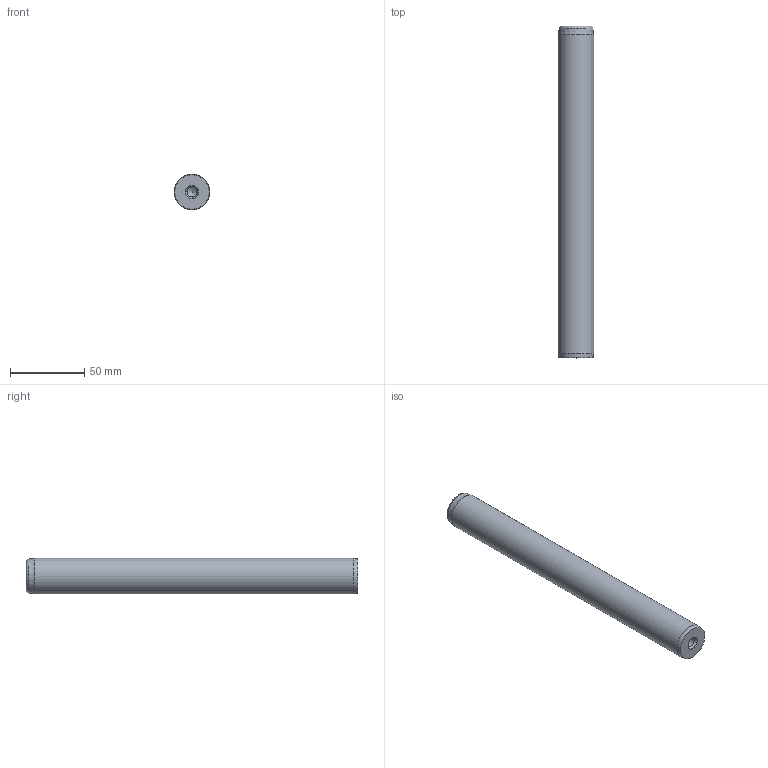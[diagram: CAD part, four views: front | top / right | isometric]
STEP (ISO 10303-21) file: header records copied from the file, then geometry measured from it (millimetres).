
FILE_DESCRIPTION( ( 'STEP AP203' ), '1' );
FILE_NAME( 'D:/Cuma/D14/D14_24224.step', '2003-01-18T23:31:16', ( ' ' ), ( ' ' ), 'XStep 1.0', ' ', ' ' );
FILE_SCHEMA( ( 'CONFIG_CONTROL_DESIGN' ) );
Length unit declared in the file: metre
Products named in the file (1): 1
Bounding box: 24 x 224 x 24 mm (x, y, z)
Volume: 99094.4 mm3; surface area: 18743.1 mm2
Topology: 1 solids, 1 shells, 14 faces, 29 edges, 17 vertices
Faces by surface type: cone 6, cylinder 5, plane 2, torus 1
Full cylindrical faces by diameter (mm): 6.75 x4, 24 x1
Entity records: 327 total; most frequent: DIRECTION 56, CARTESIAN_POINT 43, AXIS2_PLACEMENT_3D 28, EDGE_LOOP 26, ORIENTED_EDGE 26, FACE_OUTER_BOUND 20, VERTEX_POINT 15, ADVANCED_FACE 14
